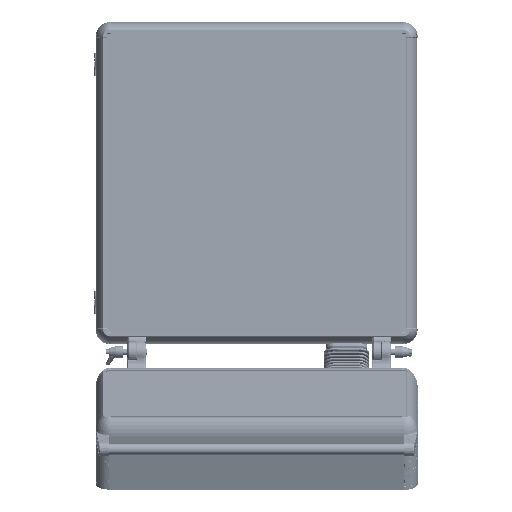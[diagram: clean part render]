
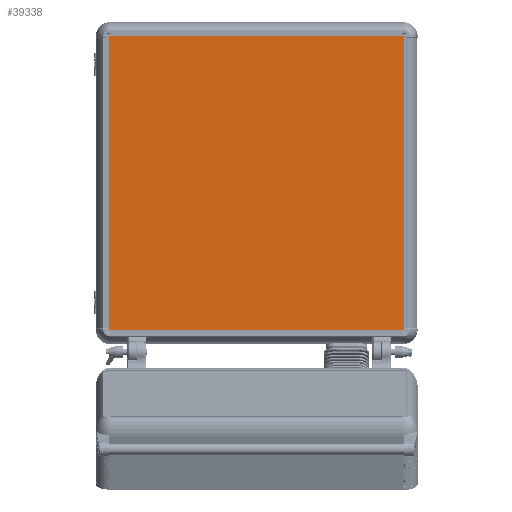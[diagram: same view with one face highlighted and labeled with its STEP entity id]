
A CAD part, top view. The second image highlights one B-rep face of the part: STEP entity #39338.
In plain terms, the highlighted planar face has unit normal (0, 0, 1).
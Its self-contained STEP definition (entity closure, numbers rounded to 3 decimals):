
#23502 = DIRECTION ( 'NONE',  ( 0., 1., 0. ) ) ;
#26342 = LINE ( 'NONE', #279573, #456637 ) ;
#39338 = ADVANCED_FACE ( 'NONE', ( #320790 ), #156527, .T. ) ;
#67226 = DIRECTION ( 'NONE',  ( 0., -1., 0. ) ) ;
#82579 = DIRECTION ( 'NONE',  ( -1., 0., 0. ) ) ;
#87169 = VERTEX_POINT ( 'NONE', #529103 ) ;
#91316 = CARTESIAN_POINT ( 'NONE',  ( -250., 250., 2. ) ) ;
#105501 = EDGE_CURVE ( 'NONE', #87169, #229665, #190552, .T. ) ;
#151050 = DIRECTION ( 'NONE',  ( 0., 0., 1. ) ) ;
#156527 = PLANE ( 'NONE',  #212739 ) ;
#163958 = ORIENTED_EDGE ( 'NONE', *, *, #493904, .T. ) ;
#175016 = EDGE_LOOP ( 'NONE', ( #498552, #163958, #276559, #178056 ) ) ;
#178056 = ORIENTED_EDGE ( 'NONE', *, *, #283956, .T. ) ;
#179871 = CARTESIAN_POINT ( 'NONE',  ( -250., 250., 2. ) ) ;
#190552 = LINE ( 'NONE', #271255, #302887 ) ;
#209095 = EDGE_CURVE ( 'NONE', #264593, #235730, #365097, .T. ) ;
#209141 = VECTOR ( 'NONE', #67226, 1000. ) ;
#212739 = AXIS2_PLACEMENT_3D ( 'NONE', #412548, #151050, #496374 ) ;
#229665 = VERTEX_POINT ( 'NONE', #365937 ) ;
#235730 = VERTEX_POINT ( 'NONE', #527047 ) ;
#236917 = CARTESIAN_POINT ( 'NONE',  ( -250., 250., 2. ) ) ;
#264593 = VERTEX_POINT ( 'NONE', #91316 ) ;
#271255 = CARTESIAN_POINT ( 'NONE',  ( 250., 250., 2. ) ) ;
#276559 = ORIENTED_EDGE ( 'NONE', *, *, #209095, .T. ) ;
#279573 = CARTESIAN_POINT ( 'NONE',  ( -250., -250., 2. ) ) ;
#283956 = EDGE_CURVE ( 'NONE', #235730, #87169, #26342, .T. ) ;
#302887 = VECTOR ( 'NONE', #23502, 1000. ) ;
#320790 = FACE_OUTER_BOUND ( 'NONE', #175016, .T. ) ;
#365097 = LINE ( 'NONE', #236917, #209141 ) ;
#365937 = CARTESIAN_POINT ( 'NONE',  ( 250., 250., 2. ) ) ;
#388718 = LINE ( 'NONE', #179871, #473109 ) ;
#412548 = CARTESIAN_POINT ( 'NONE',  ( 0., 0., 2. ) ) ;
#456637 = VECTOR ( 'NONE', #483334, 1000. ) ;
#473109 = VECTOR ( 'NONE', #82579, 1000. ) ;
#483334 = DIRECTION ( 'NONE',  ( 1., 0., 0. ) ) ;
#493904 = EDGE_CURVE ( 'NONE', #229665, #264593, #388718, .T. ) ;
#496374 = DIRECTION ( 'NONE',  ( 1., 0., 0. ) ) ;
#498552 = ORIENTED_EDGE ( 'NONE', *, *, #105501, .T. ) ;
#527047 = CARTESIAN_POINT ( 'NONE',  ( -250., -250., 2. ) ) ;
#529103 = CARTESIAN_POINT ( 'NONE',  ( 250., -250., 2. ) ) ;
